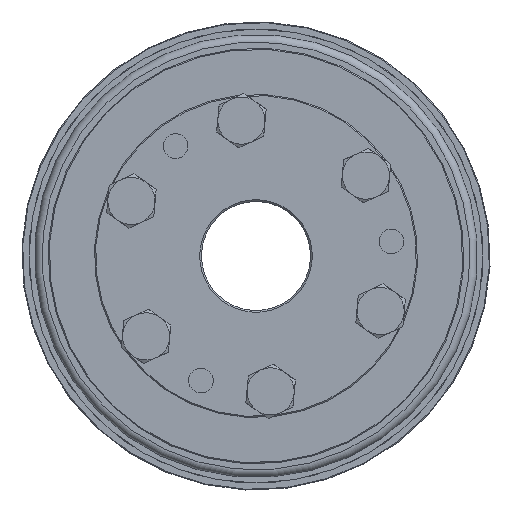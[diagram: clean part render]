
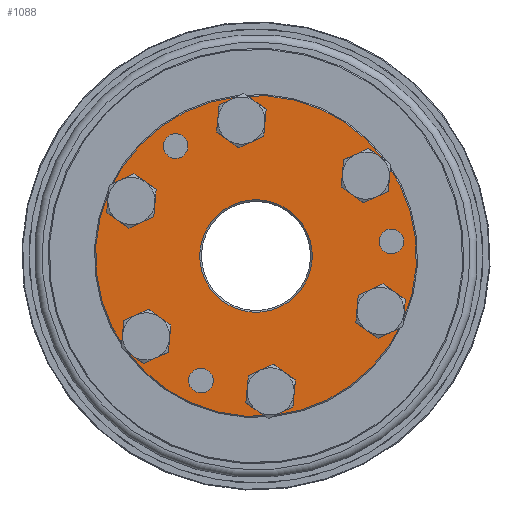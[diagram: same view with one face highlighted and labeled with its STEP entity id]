
A CAD part, left-side view. The second image highlights one B-rep face of the part: STEP entity #1088.
In plain terms, the highlighted planar face has unit normal (-1, 0, 0).
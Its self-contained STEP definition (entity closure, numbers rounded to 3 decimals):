
#1088 = ADVANCED_FACE( 'NONE', ( #2191, #2192, #2193, #2194, #2195, #2196, #2197, #2198, #2199, #2200, #2201 ), #2202, .F. );
#2191 = FACE_OUTER_BOUND( '', #3248, .T. );
#2192 = FACE_BOUND( '', #3249, .T. );
#2193 = FACE_BOUND( '', #3250, .T. );
#2194 = FACE_BOUND( '', #3251, .T. );
#2195 = FACE_BOUND( '', #3252, .T. );
#2196 = FACE_BOUND( '', #3253, .T. );
#2197 = FACE_BOUND( '', #3254, .T. );
#2198 = FACE_BOUND( '', #3255, .T. );
#2199 = FACE_BOUND( '', #3256, .T. );
#2200 = FACE_BOUND( '', #3257, .T. );
#2201 = FACE_BOUND( '', #3258, .T. );
#2202 = PLANE( '', #3259 );
#3248 = EDGE_LOOP( '', ( #4800 ) );
#3249 = EDGE_LOOP( '', ( #4801 ) );
#3250 = EDGE_LOOP( '', ( #4802 ) );
#3251 = EDGE_LOOP( '', ( #4803 ) );
#3252 = EDGE_LOOP( '', ( #4804 ) );
#3253 = EDGE_LOOP( '', ( #4805 ) );
#3254 = EDGE_LOOP( '', ( #4806 ) );
#3255 = EDGE_LOOP( '', ( #4807 ) );
#3256 = EDGE_LOOP( '', ( #4808 ) );
#3257 = EDGE_LOOP( '', ( #4809 ) );
#3258 = EDGE_LOOP( '', ( #4810 ) );
#3259 = AXIS2_PLACEMENT_3D( '', #4811, #4812, #4813 );
#4800 = ORIENTED_EDGE( '', *, *, #5544, .T. );
#4801 = ORIENTED_EDGE( '', *, *, #5411, .T. );
#4802 = ORIENTED_EDGE( '', *, *, #5086, .F. );
#4803 = ORIENTED_EDGE( '', *, *, #5213, .F. );
#4804 = ORIENTED_EDGE( '', *, *, #5482, .F. );
#4805 = ORIENTED_EDGE( '', *, *, #5535, .F. );
#4806 = ORIENTED_EDGE( '', *, *, #5095, .F. );
#4807 = ORIENTED_EDGE( '', *, *, #5485, .F. );
#4808 = ORIENTED_EDGE( '', *, *, #5021, .F. );
#4809 = ORIENTED_EDGE( '', *, *, #5472, .F. );
#4810 = ORIENTED_EDGE( '', *, *, #5545, .F. );
#4811 = CARTESIAN_POINT( '', ( 0., 15., 0. ) );
#4812 = DIRECTION( '', ( 1., 0., 0. ) );
#4813 = DIRECTION( '', ( 0., 1., 0. ) );
#5021 = EDGE_CURVE( 'NONE', #5616, #5616, #5617, .T. );
#5086 = EDGE_CURVE( 'NONE', #5723, #5723, #5724, .T. );
#5095 = EDGE_CURVE( 'NONE', #5739, #5739, #5740, .T. );
#5213 = EDGE_CURVE( 'NONE', #5931, #5931, #5932, .T. );
#5411 = EDGE_CURVE( 'NONE', #6226, #6226, #6227, .T. );
#5472 = EDGE_CURVE( 'NONE', #6305, #6305, #6306, .T. );
#5482 = EDGE_CURVE( 'NONE', #6316, #6316, #6317, .T. );
#5485 = EDGE_CURVE( 'NONE', #6320, #6320, #6321, .T. );
#5535 = EDGE_CURVE( 'NONE', #6381, #6381, #6382, .T. );
#5544 = EDGE_CURVE( 'NONE', #6390, #6390, #6391, .T. );
#5545 = EDGE_CURVE( 'NONE', #6392, #6392, #6393, .T. );
#5616 = VERTEX_POINT( '', #6466 );
#5617 = CIRCLE( '', #6467, 4.5 );
#5723 = VERTEX_POINT( '', #6691 );
#5724 = CIRCLE( '', #6692, 3.4 );
#5739 = VERTEX_POINT( '', #6720 );
#5740 = CIRCLE( '', #6721, 4.5 );
#5931 = VERTEX_POINT( '', #6960 );
#5932 = CIRCLE( '', #6961, 4.5 );
#6226 = VERTEX_POINT( '', #7390 );
#6227 = CIRCLE( '', #7391, 15.5 );
#6305 = VERTEX_POINT( '', #7490 );
#6306 = CIRCLE( '', #7491, 3.4 );
#6316 = VERTEX_POINT( '', #7506 );
#6317 = CIRCLE( '', #7507, 4.5 );
#6320 = VERTEX_POINT( '', #7510 );
#6321 = CIRCLE( '', #7511, 4.5 );
#6381 = VERTEX_POINT( '', #7704 );
#6382 = CIRCLE( '', #7705, 4.5 );
#6390 = VERTEX_POINT( '', #7713 );
#6391 = CIRCLE( '', #7714, 44.2 );
#6392 = VERTEX_POINT( '', #7715 );
#6393 = CIRCLE( '', #7716, 3.4 );
#6466 = CARTESIAN_POINT( '', ( 0., -18.75, 36.976 ) );
#6467 = AXIS2_PLACEMENT_3D( '', #7847, #7848, #7849 );
#6691 = CARTESIAN_POINT( '', ( 0., 0., -34.1 ) );
#6692 = AXIS2_PLACEMENT_3D( '', #7967, #7968, #7969 );
#6720 = CARTESIAN_POINT( '', ( 0., -18.75, -27.976 ) );
#6721 = AXIS2_PLACEMENT_3D( '', #7977, #7978, #7979 );
#6960 = CARTESIAN_POINT( '', ( 0., 18.75, 36.976 ) );
#6961 = AXIS2_PLACEMENT_3D( '', #8157, #8158, #8159 );
#7390 = CARTESIAN_POINT( '', ( 0., 0., -15.5 ) );
#7391 = AXIS2_PLACEMENT_3D( '', #8433, #8434, #8435 );
#7490 = CARTESIAN_POINT( '', ( 0., 32.476, 22.15 ) );
#7491 = AXIS2_PLACEMENT_3D( '', #8502, #8503, #8504 );
#7506 = CARTESIAN_POINT( '', ( 0., 37.5, 4.5 ) );
#7507 = AXIS2_PLACEMENT_3D( '', #8510, #8511, #8512 );
#7510 = CARTESIAN_POINT( '', ( 0., -37.5, 4.5 ) );
#7511 = AXIS2_PLACEMENT_3D( '', #8513, #8514, #8515 );
#7704 = CARTESIAN_POINT( '', ( 0., 18.75, -27.976 ) );
#7705 = AXIS2_PLACEMENT_3D( '', #8551, #8552, #8553 );
#7713 = CARTESIAN_POINT( '', ( 0., 0., -44.2 ) );
#7714 = AXIS2_PLACEMENT_3D( '', #8554, #8555, #8556 );
#7715 = CARTESIAN_POINT( '', ( 0., -32.476, 22.15 ) );
#7716 = AXIS2_PLACEMENT_3D( '', #8557, #8558, #8559 );
#7847 = CARTESIAN_POINT( '', ( 0., -18.75, 32.476 ) );
#7848 = DIRECTION( '', ( -1., 0., 0. ) );
#7849 = DIRECTION( '', ( 0., 0., 1. ) );
#7967 = CARTESIAN_POINT( '', ( 0., 0., -37.5 ) );
#7968 = DIRECTION( '', ( -1., 0., 0. ) );
#7969 = DIRECTION( '', ( 0., 0., 1. ) );
#7977 = CARTESIAN_POINT( '', ( 0., -18.75, -32.476 ) );
#7978 = DIRECTION( '', ( -1., 0., 0. ) );
#7979 = DIRECTION( '', ( 0., 0., 1. ) );
#8157 = CARTESIAN_POINT( '', ( 0., 18.75, 32.476 ) );
#8158 = DIRECTION( '', ( -1., 0., 0. ) );
#8159 = DIRECTION( '', ( 0., 0., 1. ) );
#8433 = CARTESIAN_POINT( '', ( 0., 0., 0. ) );
#8434 = DIRECTION( '', ( 1., 0., 0. ) );
#8435 = DIRECTION( '', ( 0., 0., -1. ) );
#8502 = CARTESIAN_POINT( '', ( 0., 32.476, 18.75 ) );
#8503 = DIRECTION( '', ( -1., 0., 0. ) );
#8504 = DIRECTION( '', ( 0., 0., 1. ) );
#8510 = CARTESIAN_POINT( '', ( 0., 37.5, 0. ) );
#8511 = DIRECTION( '', ( -1., 0., 0. ) );
#8512 = DIRECTION( '', ( 0., 0., 1. ) );
#8513 = CARTESIAN_POINT( '', ( 0., -37.5, 0. ) );
#8514 = DIRECTION( '', ( -1., 0., 0. ) );
#8515 = DIRECTION( '', ( 0., 0., 1. ) );
#8551 = CARTESIAN_POINT( '', ( 0., 18.75, -32.476 ) );
#8552 = DIRECTION( '', ( -1., 0., 0. ) );
#8553 = DIRECTION( '', ( 0., 0., 1. ) );
#8554 = CARTESIAN_POINT( '', ( 0., 0., 0. ) );
#8555 = DIRECTION( '', ( -1., 0., 0. ) );
#8556 = DIRECTION( '', ( 0., 0., -1. ) );
#8557 = CARTESIAN_POINT( '', ( 0., -32.476, 18.75 ) );
#8558 = DIRECTION( '', ( -1., 0., 0. ) );
#8559 = DIRECTION( '', ( 0., 0., 1. ) );
